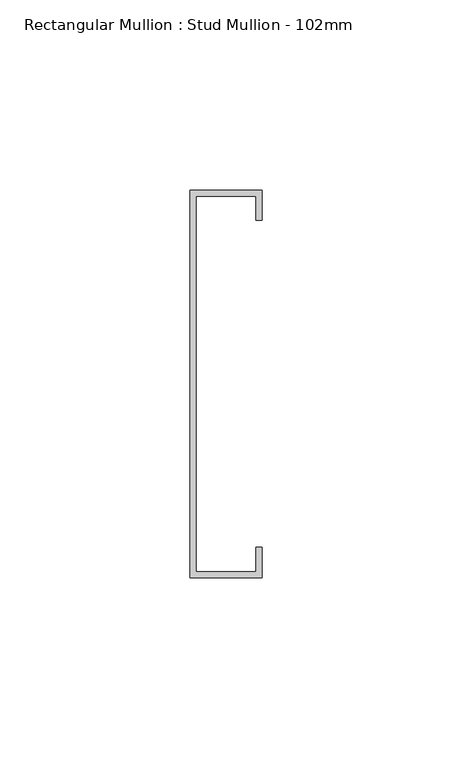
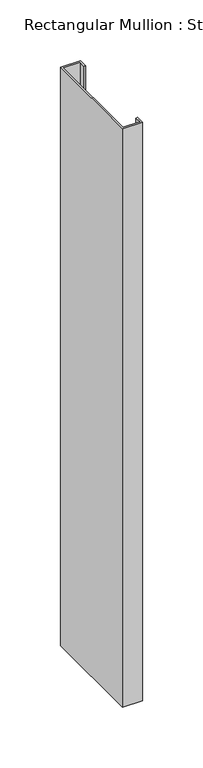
"""IFC4 building model written with IfcOpenShell, lengths in millimetres: member geometry, Rectangular Mullion : Stud Mullion - 102mm."""

from ifc_helpers import new_model, si_unit, frame, origin, place, context, project, spatial, polyline, outline, extrude, source, transform, mapped, element, save


def rectangular_mullion_stud_mullion_102mm_0e5ab9cc(model_context):
    return source(origin(), model_context, "Body", "SweptSolid", [
        extrude(outline(polyline([(0.0, 43.0), (-1.6, 43.0), (-1.6, 49.4), (-17.4, 49.4), (-17.4, -49.4), (-1.6, -49.4), (-1.6, -43.0), (0.0, -43.0), (0.0, -51.0), (-19.0, -51.0), (-19.0, 51.0), (0.0, 51.0), (0.0, 43.0)])), frame((0.0, 0.0, -581.0000003), z_axis=(0.0, 0.0, 1.0), x_axis=(1.0, 0.0, 0.0)), (0.0, 0.0, 1.0), 581.0000003),
    ])


if __name__ == "__main__":
    model = new_model("IFC4")
    model_context = context("Model", 3, world=origin())
    ifc_project = project(units=[si_unit("LENGTHUNIT", "METRE", prefix="MILLI")], contexts=[model_context])
    site = spatial("IfcSite", under=ifc_project)
    building = spatial("IfcBuilding", under=site)
    placement = place(None, origin())
    rectangular_mullion_stud_mullion_102mm_shape = rectangular_mullion_stud_mullion_102mm_0e5ab9cc(model_context)
    element("IfcMember", 1, ObjectType="Rectangular Mullion : Stud Mullion - 102mm", at=placement, inside=building, context=model_context, shape_type="MappedRepresentation", body=[
        mapped(rectangular_mullion_stud_mullion_102mm_shape, transform((0.0, 0.0, 0.0), x_axis=(1.0, 0.0, 0.0), y_axis=(0.0, 1.0, 0.0), z_axis=(0.0, 0.0, 1.0))),
    ])
    save(model, "model.ifc")
